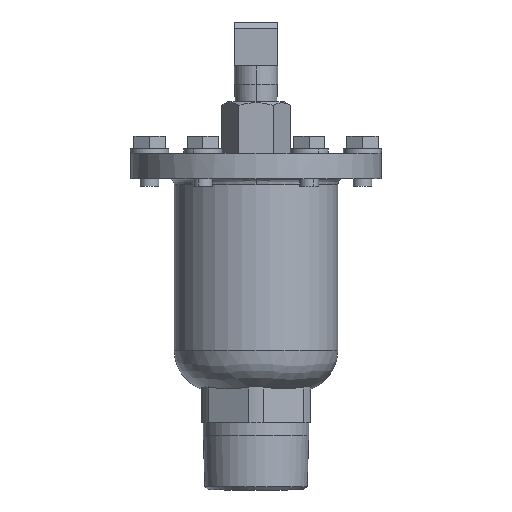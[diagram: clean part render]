
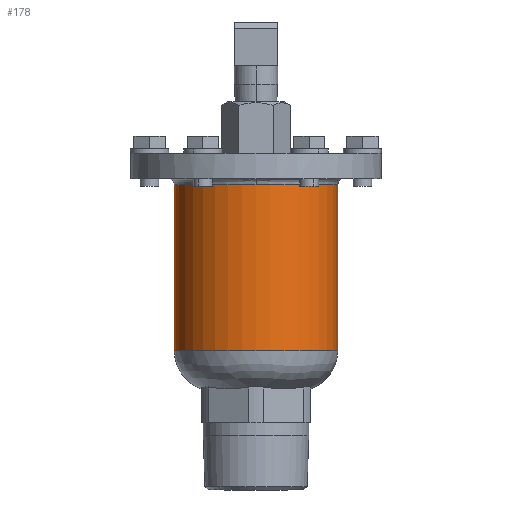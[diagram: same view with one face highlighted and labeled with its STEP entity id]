
A CAD part, left-side view. The second image highlights one B-rep face of the part: STEP entity #178.
In plain terms, the highlighted cylindrical face has radius 26.1 mm (diameter 52.2 mm), a partial arc.
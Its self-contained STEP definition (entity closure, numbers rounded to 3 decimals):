
#178=ADVANCED_FACE('',(#1283),#1282,.T.);
#1282=CYLINDRICAL_SURFACE('',#2333,26.1);
#1283=FACE_OUTER_BOUND('',#2334,.T.);
#2330=CARTESIAN_POINT('',(0.,39.5,0.));
#2331=DIRECTION('',(0.,-1.,0.));
#2332=DIRECTION('',(0.,0.,-1.));
#2333=AXIS2_PLACEMENT_3D('',#2330,#2331,#2332);
#2334=EDGE_LOOP('',(#3249,#3250,#3251,#3252,#3253));
#3249=ORIENTED_EDGE('',*,*,#3802,.F.);
#3250=ORIENTED_EDGE('',*,*,#3803,.F.);
#3251=ORIENTED_EDGE('',*,*,#3798,.T.);
#3252=ORIENTED_EDGE('',*,*,#3804,.T.);
#3253=ORIENTED_EDGE('',*,*,#3801,.F.);
#3798=EDGE_CURVE('',#5894,#5887,#5895,.T.);
#3801=EDGE_CURVE('',#5908,#5886,#5915,.T.);
#3802=EDGE_CURVE('',#5921,#5908,#5922,.T.);
#3803=EDGE_CURVE('',#5894,#5921,#5928,.T.);
#3804=EDGE_CURVE('',#5887,#5886,#5934,.T.);
#5886=VERTEX_POINT('',#7622);
#5887=VERTEX_POINT('',#7623);
#5894=VERTEX_POINT('',#7628);
#5895=(BOUNDED_CURVE() B_SPLINE_CURVE(1,(#7629,#7630),.UNSPECIFIED.,.F.,.F.) B_SPLINE_CURVE_WITH_KNOTS((2,2),(0.083,0.917),.UNSPECIFIED.) CURVE() GEOMETRIC_REPRESENTATION_ITEM() RATIONAL_B_SPLINE_CURVE((1.,1.)) REPRESENTATION_ITEM('') );
#5908=VERTEX_POINT('',#7636);
#5915=(BOUNDED_CURVE() B_SPLINE_CURVE(1,(#7641,#7642),.UNSPECIFIED.,.F.,.F.) B_SPLINE_CURVE_WITH_KNOTS((2,2),(0.083,0.917),.UNSPECIFIED.) CURVE() GEOMETRIC_REPRESENTATION_ITEM() RATIONAL_B_SPLINE_CURVE((0.75,0.75)) REPRESENTATION_ITEM('') );
#5921=VERTEX_POINT('',#7643);
#5922=CIRCLE('',#7647,26.1);
#5928=CIRCLE('',#7651,26.1);
#5934=CIRCLE('',#7655,26.1);
#7622=CARTESIAN_POINT('',(0.,13.,26.1));
#7623=CARTESIAN_POINT('',(0.,13.,-26.1));
#7628=CARTESIAN_POINT('',(0.,66.,-26.1));
#7629=CARTESIAN_POINT('',(0.,66.,-26.1));
#7630=CARTESIAN_POINT('',(0.,13.,-26.1));
#7636=CARTESIAN_POINT('',(0.,66.,26.1));
#7641=CARTESIAN_POINT('',(0.,66.,26.1));
#7642=CARTESIAN_POINT('',(0.,13.,26.1));
#7643=CARTESIAN_POINT('',(-26.1,66.,0.));
#7644=CARTESIAN_POINT('',(0.,66.,0.));
#7645=DIRECTION('',(0.,1.,0.));
#7646=DIRECTION('',(0.,0.,1.));
#7647=AXIS2_PLACEMENT_3D('',#7644,#7645,#7646);
#7648=CARTESIAN_POINT('',(0.,66.,0.));
#7649=DIRECTION('',(0.,1.,0.));
#7650=DIRECTION('',(0.,0.,1.));
#7651=AXIS2_PLACEMENT_3D('',#7648,#7649,#7650);
#7652=CARTESIAN_POINT('',(0.,13.,0.));
#7653=DIRECTION('',(0.,1.,0.));
#7654=DIRECTION('',(0.,0.,-1.));
#7655=AXIS2_PLACEMENT_3D('',#7652,#7653,#7654);
